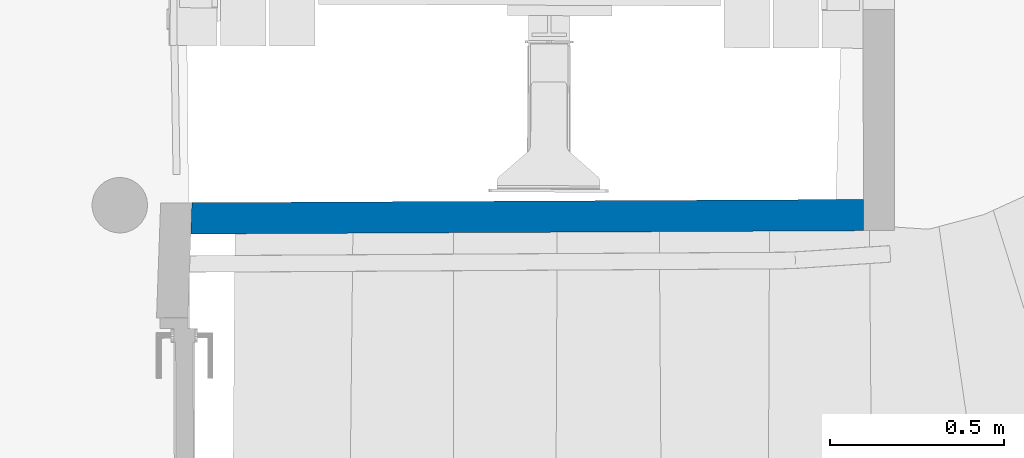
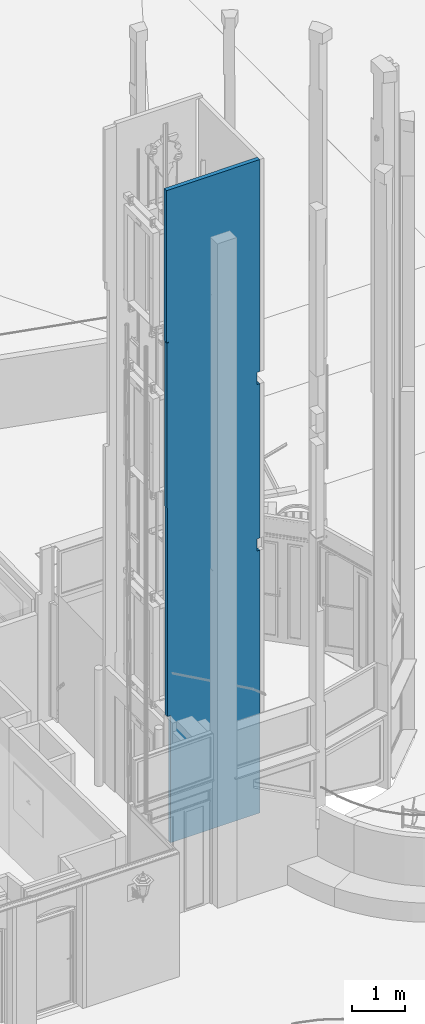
# One storey, part 98 of 133: 1 wall.
"""IFC2X3 building model written with IfcOpenShell, lengths in centimetres."""

from ifc_helpers import new_model, entity, si_unit, converted_unit, direction, frame, origin, origin_with_axes, place, context, subcontext, project, spatial, faceted_brep, material, layer, layer_set, layer_usage, type_object, element, save


model = new_model("IFC2X3")

# Units and contexts
model_context = context("Model", 3, precision=0.0001, world=origin(), true_north=direction((0.225632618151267, 0.974212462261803, 0.0)))
body_context = subcontext(model_context, "Body", "Model", "MODEL_VIEW")
ifc_project = project(units=[si_unit("LENGTHUNIT", "METRE", prefix="CENTI"), si_unit("AREAUNIT", "SQUARE_METRE", prefix="CENTI"), si_unit("VOLUMEUNIT", "CUBIC_METRE", prefix="CENTI"), converted_unit("PLANEANGLEUNIT", "DEGREE", entity("IfcRatioMeasure", 0.0174532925), si_unit("PLANEANGLEUNIT", "RADIAN"), dimensions=[0, 0, 0, 0, 0, 0, 0])], contexts=[model_context])

# Site, building, storey
site_placement = place(None, origin_with_axes())
site = spatial("IfcSite", under=ifc_project, at=site_placement, Name="Default Site", CompositionType="ELEMENT")
building_placement = place(site_placement, origin_with_axes())
building = spatial("IfcBuilding", under=site, at=building_placement, Name="Default Building", CompositionType="ELEMENT")
storey_placement = place(building_placement, frame((0.0, 0.0, -291.400371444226), z_axis=(0.0, 0.0, 1.0), x_axis=(1.0, 0.0, 0.0)))
storey = spatial("IfcBuildingStorey", under=building, at=storey_placement, Name="Rez-de-Jardin", CompositionType="ELEMENT", Elevation=-291.400371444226)

# Wall
ifc_material = material(Name="<aucun>")
ifc_layer = layer(ifc_material, 9.0)
ifc_layer_set = layer_set([ifc_layer], Name="default")
ifc_layer_usage = layer_usage(ifc_layer_set, "AXIS2", "POSITIVE", -4.5)
wall_type = type_object("IfcWallType", Name="default 90", PredefinedType="NOTDEFINED", material=ifc_layer_set)
wall_placement = place(storey_placement, frame((1100.97423759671, -665.166462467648, 7.46069872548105e-12), z_axis=(0.0, 0.0, 1.0), x_axis=(0.999987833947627, 0.00493274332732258, 0.0)))
element("IfcWall", 1, at=wall_placement, inside=storey, type_object=wall_type, material=ifc_layer_usage, Name="Enveloppe 568089", context=body_context, shape_type="Brep", body=[
    faceted_brep([(19.9138331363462, 4.50000239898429, 1.03831219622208e-05), (5.30565374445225, 4.50000239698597, 1.03831219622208e-05), (5.30565374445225, 4.50000239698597, 270.392003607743), (5.30565374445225, 4.50000239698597, 271.400371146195), (5.30565374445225, 4.50000239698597, 289.400371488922), (7.04374637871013, 4.50000239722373, 289.400371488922), (19.9138331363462, 4.50000239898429, 289.400371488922), (7.04374637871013, 4.50000239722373, 291.413221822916), (7.04374637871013, 4.50000239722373, 353.79756535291), (19.9138331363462, 4.50000239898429, 353.79756535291), (5.80652963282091, 4.50001956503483, 353.79756535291), (7.04374637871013, 4.50001956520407, 353.79756535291), (7.04374637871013, 4.50001956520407, 291.413221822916), (5.80652963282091, 4.50001956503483, 291.413221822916), (5.30565374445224, 4.50001070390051, 353.79756535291), (5.80652963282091, 4.50001070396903, 353.79756535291), (5.80652963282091, 4.50001070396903, 291.413221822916), (5.30565374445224, 4.50001070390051, 291.413221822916), (7.04374637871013, 4.50002020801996, 289.400371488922), (5.30565374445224, 4.5000202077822, 289.400371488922), (5.30565374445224, 4.5000202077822, 291.413221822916), (5.80652963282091, 4.50002020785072, 291.413221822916), (7.04374637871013, 4.50002020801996, 291.413221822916), (5.30533071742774, 4.49252586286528, 291.413221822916), (-1.95618760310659, 4.46133609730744, 291.413221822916), (-1.95618760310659, 4.46133609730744, 353.79756535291), (5.30533071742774, 4.49252586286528, 353.79756535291), (7.04374637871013, 4.50000239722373, 769.208560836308), (7.04374637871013, 4.50000239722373, 771.195732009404), (19.9138331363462, 4.50000239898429, 771.195732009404), (19.9138331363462, 4.50000239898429, 644.308577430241), (19.9138331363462, 4.50000239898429, 569.408570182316), (5.30571218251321, 4.49252398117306, 771.195732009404), (5.80659866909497, 4.49467539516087, 771.195732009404), (5.80659866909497, 4.49467539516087, 769.208560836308), (5.30571218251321, 4.49252398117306, 769.208560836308), (5.80659865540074, 4.49467858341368, 769.208560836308), (7.04374649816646, 4.4999923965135, 769.208560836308), (7.04374649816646, 4.4999923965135, 353.79756535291), (5.80659865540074, 4.49467858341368, 353.79756535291), (5.30533071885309, 4.49252553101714, 353.79756535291), (-1.95618760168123, 4.4613357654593, 353.79756535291), (-1.95618760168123, 4.4613357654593, 769.208560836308), (7.04374637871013, 4.50002020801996, 769.208560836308), (5.80652963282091, 4.50002020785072, 769.208560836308), (5.80652963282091, 4.50002020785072, 771.195732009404), (7.04374637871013, 4.50002020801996, 771.195732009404), (5.30565327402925, 4.49991533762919, 771.195732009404), (5.8065296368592, 4.49999377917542, 771.195732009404), (5.8065296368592, 4.49999377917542, 769.208560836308), (5.30565327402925, 4.49991533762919, 769.208560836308), (-1.95638448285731, 4.49878221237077, 771.195732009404), (5.30565327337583, 4.49991950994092, 771.195732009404), (5.30565327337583, 4.49991950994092, 769.208560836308), (-1.95638448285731, 4.49878221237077, 769.208560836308), (-3.19350680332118, 4.49859036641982, 771.195732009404), (-1.95638448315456, 4.49878411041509, 771.195732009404), (-1.95638448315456, 4.49878411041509, 769.208560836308), (-3.19350680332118, 4.49859036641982, 769.208560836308), (5.80652963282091, 4.50000239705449, 771.195732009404), (5.80652963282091, 4.50000239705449, 1133.31073368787), (5.80652963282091, 4.50000239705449, 1143.31077183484), (19.9138331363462, 4.50000239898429, 1143.31077183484), (19.9138331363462, 4.50000239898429, 1054.19572438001), (19.9138331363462, 4.50000239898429, 977.310739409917), (-3.19350680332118, 4.49859036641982, 1143.31077183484), (5.80652963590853, 4.49999984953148, 1143.31077183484), (5.80652963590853, 4.49999984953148, 1133.31073368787), (-3.19350680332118, 4.49859036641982, 1133.31073368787), (5.30565327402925, 4.49991533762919, 1133.31073368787), (5.8065296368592, 4.49999377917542, 1133.31073368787), (-1.95638448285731, 4.49878221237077, 1133.31073368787), (5.30565327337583, 4.49991950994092, 1133.31073368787), (-1.95638448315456, 4.49878411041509, 1133.31073368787), (5.80652963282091, 4.50000239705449, 1145.31072224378), (5.80652963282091, 4.50000239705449, 1147.31076802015), (19.9138331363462, 4.50000239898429, 1147.31076802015), (1.28367782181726e-05, 4.50000370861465, 1145.31072224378), (5.80652963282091, 4.50000370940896, 1145.31072224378), (5.80652963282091, 4.50000370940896, 1143.31077183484), (1.28367782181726e-05, 4.50000370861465, 1143.31077183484), (1.28367782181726e-05, 4.50000370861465, 1147.31076802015), (5.27484973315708, 4.50000370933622, 1147.31076802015), (5.80652963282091, 4.50000370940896, 1147.31076802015), (8.36775910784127e-06, 4.49909772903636, 1143.31077183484), (-3.19350680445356, 4.4985975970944, 1143.31077183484), (-3.19350680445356, 4.4985975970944, 1145.31072224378), (8.36775910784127e-06, 4.49909772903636, 1145.31072224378), (-3.7251796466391, 4.50000370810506, 1147.31076802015), (-3.7251796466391, 4.50000370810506, 1246.96935261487), (1.28367782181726e-05, 4.50000370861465, 1246.96935261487), (5.27484973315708, 4.50000370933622, 1246.96935261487), (5.27484973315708, 4.50001960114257, 1246.96935261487), (19.9138331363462, 4.50001960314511, 1246.96935261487), (19.9138331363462, 4.50001960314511, 1147.31076802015), (5.80652963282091, 4.5000196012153, 1147.31076802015), (5.27484973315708, 4.50001960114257, 1147.31076802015), (-3.7251796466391, 4.50002089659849, 1495.01317585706), (5.27484973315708, 4.50002089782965, 1495.01317585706), (5.27484973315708, 4.50002089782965, 1246.96935261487), (-3.7251796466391, 4.50002089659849, 1246.96935261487), (5.27484973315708, 4.50001960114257, 1495.01317585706), (19.9138331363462, 4.50001960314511, 1495.01317585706), (4.93776811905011, -4.50001597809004, 1.03831219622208e-05), (19.9137843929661, -4.5000159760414, 1.03831219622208e-05), (19.9137843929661, -4.5000159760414, 289.400371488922), (4.93776811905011, -4.50001597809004, 289.400371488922), (4.93776811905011, -4.50001597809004, 271.400371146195), (4.93776811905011, -4.50001597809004, 270.392003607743), (19.9137843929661, -4.5000159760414, 353.79756535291), (4.93776811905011, -4.50001597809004, 353.79756535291), (4.93776811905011, -4.50001597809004, 291.413221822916), (-1.91770769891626, -4.50000742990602, 291.413221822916), (4.93776811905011, -4.50000742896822, 291.413221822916), (4.93776811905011, -4.50000742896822, 353.79756535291), (-1.91770769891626, -4.50000742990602, 353.79756535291), (19.9137843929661, -4.50000742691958, 353.79756535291), (19.9137843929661, -4.50000742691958, 569.408570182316), (19.9137843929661, -4.50000742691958, 644.308577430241), (19.9137843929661, -4.50000742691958, 771.195732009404), (-1.91770769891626, -4.50000742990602, 771.195732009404), (-1.91770769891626, -4.50000742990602, 769.208560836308), (-3.19202286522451, -4.50001581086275, 769.208560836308), (-1.91770769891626, -4.50001581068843, 769.208560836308), (-1.91770769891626, -4.50001581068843, 771.195732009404), (-3.19202286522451, -4.50001581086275, 771.195732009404), (19.9137843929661, -4.50001580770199, 771.195732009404), (19.9137843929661, -4.50001580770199, 977.310739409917), (19.9137843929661, -4.50001580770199, 1054.19572438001), (19.9137843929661, -4.50001580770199, 1143.31077183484), (-3.59066019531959e-05, -4.5000158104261, 1143.31077183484), (-3.19202286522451, -4.50001581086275, 1143.31077183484), (-3.5906601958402e-05, -4.49997775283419, 1143.31077183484), (19.9137843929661, -4.49997775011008, 1143.31077183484), (19.9137843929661, -4.49997775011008, 1147.31076802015), (-3.5906601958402e-05, -4.49997775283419, 1147.31076802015), (-3.5906601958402e-05, -4.49997775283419, 1145.31072224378), (-3.59066019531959e-05, -4.5000158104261, 1145.31072224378), (-3.19202286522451, -4.50001581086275, 1145.31072224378), (-3.76547413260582, -4.50000046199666, 1147.31076802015), (-3.59066019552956e-05, -4.50000046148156, 1147.31076802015), (-3.59066019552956e-05, -4.50000046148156, 1246.96935261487), (-3.76547413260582, -4.50000046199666, 1246.96935261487), (19.9137843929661, -4.49997775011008, 1246.96935261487), (-3.5906601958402e-05, -4.49997775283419, 1246.96935261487), (19.9137843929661, -4.50000045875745, 1246.96935261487), (19.9137843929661, -4.50000045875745, 1495.01317585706), (-3.76547413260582, -4.50000046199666, 1495.01317585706), (19.9137843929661, -4.49997906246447, 1.03831219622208e-05), (5.30565374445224, 4.50001070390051, 1.03831219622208e-05), (5.30567506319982, 4.50000983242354, 289.400371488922), (5.30567506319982, 4.50000983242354, 271.400371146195), (19.9137843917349, 4.50000239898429, 1.03831219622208e-05), (19.9137843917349, 4.50000239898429, 289.400371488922), (19.9137843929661, -4.49997906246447, 289.400371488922), (5.30567506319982, 4.50000983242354, 270.392003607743), (5.30567506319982, 4.50000983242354, 1.03831219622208e-05), (19.9137843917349, 4.50000239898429, 353.79756535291), (19.9137843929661, -4.49997906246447, 353.79756535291), (5.30567506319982, 4.50000983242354, 291.413221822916), (-1.95618765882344, 4.46134906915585, 291.413221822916), (19.9137843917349, 4.50000239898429, 569.408570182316), (19.9137843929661, -4.49997906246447, 569.408570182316), (19.9137843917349, 4.50000239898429, 644.308577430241), (19.9137843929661, -4.49997906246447, 644.308577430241), (19.9137843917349, 4.50000239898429, 771.195732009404), (19.9137843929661, -4.49997906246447, 771.195732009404), (5.80652963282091, 4.50001956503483, 769.208560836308), (-1.95618765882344, 4.46134906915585, 769.208560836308), (19.9137843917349, 4.50000239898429, 977.310739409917), (19.9137843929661, -4.49997906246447, 977.310739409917), (19.9137843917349, 4.50000239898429, 1054.19572438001), (19.9137843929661, -4.49997906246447, 1054.19572438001), (19.9137843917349, 4.50000239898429, 1143.31077183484), (19.9137843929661, -4.49997906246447, 1143.31077183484), (19.9137843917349, 4.50000239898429, 1147.31076802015), (19.9137843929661, -4.49997906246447, 1147.31076802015), (8.36899013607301e-06, -4.49997775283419, 1145.31072224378), (8.36899013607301e-06, -4.49997775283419, 1147.31076802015), (8.36775898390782e-06, 4.50000370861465, 1147.31076802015), (8.36775898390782e-06, 4.50000370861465, 1145.31072224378), (8.36775898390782e-06, 4.50000370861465, 1143.31077183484), (-3.19350680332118, 4.49859036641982, 1145.31072224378), (-3.7251796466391, 4.50002089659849, 1147.31076802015), (19.9137843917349, 4.50000239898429, 1246.96935261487), (19.9137843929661, -4.49997906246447, 1246.96935261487), (19.9138331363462, 4.50000239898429, 1495.01317585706), (19.9137843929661, -4.49997906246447, 1495.01317585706), (19.9137843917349, 4.50000239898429, 1495.01317585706), (-1.91769672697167, -4.50000738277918, 291.413221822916), (-1.91769672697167, -4.50000738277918, 353.79756535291), (-1.95618765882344, 4.46134906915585, 353.79756535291), (-1.95619863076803, 4.46134902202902, 769.208560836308), (-1.95619863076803, 4.46134902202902, 353.79756535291), (-3.19209754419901, -4.50001582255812, 769.208560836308), (-3.19209754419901, -4.50001582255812, 771.195732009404), (-3.19209754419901, -4.50001582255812, 1143.31077183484), (-3.19209754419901, -4.50001582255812, 1145.31072224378), (-3.76541108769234, -4.50000074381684, 1147.31076802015), (-3.76541108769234, -4.50000074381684, 1246.96935261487), (-3.76541108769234, -4.50000074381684, 1495.01317585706)], [[[0, 1, 2, 3, 4, 5, 6]], [[6, 5, 7, 8, 9]], [[10, 11, 12, 13]], [[14, 15, 16, 17]], [[18, 19, 20, 21, 22]], [[23, 24, 25, 26]], [[9, 8, 27, 28, 29, 30, 31]], [[32, 33, 34, 35]], [[32, 33, 34, 35]], [[36, 37, 38, 39]], [[36, 39, 40, 41, 42]], [[43, 44, 45, 46]], [[47, 48, 49, 50]], [[47, 48, 49, 50]], [[51, 52, 53, 54]], [[55, 56, 57, 58]], [[29, 28, 59, 60, 61, 62, 63, 64]], [[65, 66, 67, 68]], [[69, 70, 48, 47]], [[71, 72, 52, 51]], [[68, 73, 56, 55]], [[62, 61, 74, 75, 76]], [[77, 78, 79, 80]], [[81, 82, 83, 78, 77]], [[84, 85, 86, 87]], [[81, 88, 89, 90]], [[90, 91, 82, 81]], [[92, 93, 94, 95, 96]], [[97, 98, 99, 100]], [[101, 102, 93, 92]], [[103, 104, 105, 106, 107, 108]], [[106, 105, 109, 110, 111]], [[112, 113, 114, 115]], [[115, 114, 116, 117, 118, 119, 120, 121]], [[122, 123, 124, 125]], [[125, 124, 126, 127, 128, 129, 130, 131]], [[132, 133, 134, 135, 136]], [[131, 130, 137, 138]], [[139, 140, 141, 142]], [[135, 134, 143, 144]], [[142, 141, 145, 146, 147]], [[148, 103, 149, 0]], [[106, 150, 151, 107]], [[148, 152, 153, 154]], [[107, 151, 155, 108]], [[108, 155, 156, 103]], [[154, 153, 157, 158]], [[111, 159, 150, 106]], [[160, 23, 111, 112]], [[158, 157, 161, 162]], [[162, 161, 163, 164]], [[164, 163, 165, 166]], [[54, 167, 43, 36, 168, 121, 122, 58]], [[166, 165, 169, 170]], [[170, 169, 171, 172]], [[172, 171, 173, 174]], [[174, 173, 175, 176]], [[87, 177, 178, 179, 180, 181]], [[138, 136, 87, 182]], [[183, 81, 135, 139]], [[176, 175, 184, 185]], [[186, 101, 97, 147, 187]], [[185, 184, 188, 187]], [[160, 189, 190, 191]], [[121, 192, 193, 115]], [[58, 194, 195, 55]], [[55, 195, 196, 65, 68]], [[65, 196, 197, 182]], [[183, 198, 199, 100]], [[100, 199, 200, 97]]]),
    faceted_brep([(198.50086751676, 4.49998736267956, 1.03831219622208e-05), (19.9138331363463, 4.49998733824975, 1.03831219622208e-05), (19.9138331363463, 4.49998733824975, 289.400371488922), (19.9138331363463, 4.49998733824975, 353.79756535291), (19.9138331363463, 4.49998733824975, 569.408570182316), (192.075980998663, 4.49998736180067, 569.408570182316), (198.50086751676, 4.49998736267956, 569.408570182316), (198.50086751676, 4.49998736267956, 391.400371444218), (198.50086751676, 4.49998736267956, 291.413221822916), (192.075980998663, 4.50001769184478, 569.408570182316), (19.9138331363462, 4.50001766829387, 569.408570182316), (19.9138331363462, 4.50001766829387, 644.308577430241), (192.075980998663, 4.50001769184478, 644.308577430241), (192.075980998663, 4.50001769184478, 629.195724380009), (192.075980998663, 4.50001769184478, 601.400361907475), (192.075980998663, 4.49998736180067, 601.400361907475), (198.50086751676, 4.49998736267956, 601.400361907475), (198.50086751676, 4.49998736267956, 629.195724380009), (192.075980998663, 4.49998736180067, 629.195724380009), (192.075980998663, 4.49998736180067, 644.308577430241), (198.50086751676, 4.49998736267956, 644.308577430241), (19.9138331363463, 4.49998733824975, 644.308577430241), (19.9138331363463, 4.49998733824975, 771.195732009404), (19.9138331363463, 4.49998733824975, 977.310739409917), (192.27730390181, 4.49998736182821, 977.310739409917), (198.50086751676, 4.49998736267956, 977.310739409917), (198.50086751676, 4.49998736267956, 860.310731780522), (198.50086751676, 4.49998736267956, 771.195732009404), (192.27730390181, 4.4999782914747, 977.310739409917), (19.9138331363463, 4.49997826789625, 977.310739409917), (19.9138331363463, 4.49997826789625, 1054.19572438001), (192.27730390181, 4.4999782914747, 1054.19572438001), (192.27730390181, 4.4999782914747, 1009.99573315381), (192.27730390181, 4.4999782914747, 982.195745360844), (192.27730390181, 4.49998736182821, 982.195745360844), (198.50086751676, 4.49998736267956, 982.195745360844), (198.50086751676, 4.49998736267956, 1009.99573315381), (192.27730390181, 4.49998736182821, 1009.99573315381), (192.27730390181, 4.49998736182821, 1054.19572438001), (198.50086751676, 4.49998736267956, 1054.19572438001), (19.9138331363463, 4.49998733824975, 1054.19572438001), (19.9138331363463, 4.49998733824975, 1143.31077183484), (19.9138331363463, 4.49998733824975, 1147.31076802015), (19.9138331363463, 4.49998733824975, 1246.96935261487), (19.9138331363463, 4.49998733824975, 1495.01317585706), (198.50086751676, 4.49998736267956, 1495.01317585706), (198.50086751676, 4.49998736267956, 1143.31077183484), (19.9137843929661, -4.49997906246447, 1.03831219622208e-05), (198.471349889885, -4.49997903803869, 1.03831219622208e-05), (198.471349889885, -4.49997903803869, 291.413221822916), (198.471349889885, -4.49997903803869, 391.400371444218), (198.471349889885, -4.49997903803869, 569.408570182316), (191.974841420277, -4.49997903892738, 569.408570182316), (19.9137843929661, -4.49997906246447, 569.408570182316), (19.9137843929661, -4.49997906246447, 353.79756535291), (19.9137843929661, -4.49997906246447, 289.400371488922), (191.974841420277, -4.49997903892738, 601.400361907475), (191.974841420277, -4.49997903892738, 629.195724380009), (191.974841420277, -4.49997903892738, 644.308577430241), (19.9137843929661, -4.49997906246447, 644.308577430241), (191.974841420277, -4.49998963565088, 569.408570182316), (198.471349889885, -4.49998963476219, 569.408570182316), (198.471349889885, -4.49998963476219, 601.400361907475), (191.974841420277, -4.49998963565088, 601.400361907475), (191.974841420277, -4.49998963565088, 629.195724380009), (198.471349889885, -4.49998963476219, 629.195724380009), (198.471349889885, -4.49998963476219, 644.308577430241), (191.974841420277, -4.49998963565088, 644.308577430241), (198.471349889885, -4.49997903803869, 644.308577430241), (198.471349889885, -4.49997903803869, 771.195732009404), (198.471349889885, -4.49997903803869, 860.310731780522), (198.471349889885, -4.49997903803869, 977.310739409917), (192.1434529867, -4.49997903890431, 977.310739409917), (19.9137843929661, -4.49997906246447, 977.310739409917), (19.9137843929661, -4.49997906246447, 771.195732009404), (192.1434529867, -4.49997903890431, 982.195745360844), (192.1434529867, -4.49997903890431, 1009.99573315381), (192.1434529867, -4.49997903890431, 1054.19572438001), (19.9137843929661, -4.49997906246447, 1054.19572438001), (192.1434529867, -4.50001073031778, 977.310739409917), (198.471349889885, -4.50001072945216, 977.310739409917), (198.471349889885, -4.50001072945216, 982.195745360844), (192.1434529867, -4.50001073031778, 982.195745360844), (192.1434529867, -4.50001073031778, 1009.99573315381), (198.471349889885, -4.50001072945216, 1009.99573315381), (198.471349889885, -4.50001072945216, 1054.19572438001), (192.1434529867, -4.50001073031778, 1054.19572438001), (198.471349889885, -4.49997903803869, 1054.19572438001), (198.471349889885, -4.49997903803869, 1143.31077183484), (198.471349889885, -4.49997903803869, 1495.01317585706), (19.9137843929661, -4.49997906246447, 1495.01317585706), (19.9137843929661, -4.49997906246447, 1246.96935261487), (19.9137843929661, -4.49997906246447, 1147.31076802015), (19.9137843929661, -4.49997906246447, 1143.31077183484), (198.471349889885, -4.49999178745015, 1.03831219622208e-05), (19.9138331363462, 4.50000239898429, 1.03831219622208e-05), (19.9137843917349, 4.50000239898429, 289.400371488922), (19.9137843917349, 4.50000239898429, 1.03831219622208e-05), (198.50086711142, 4.49998736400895, 1.03831219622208e-05), (198.50086711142, 4.49998736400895, 291.413221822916), (198.471349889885, -4.49999178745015, 291.413221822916), (19.9137843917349, 4.50000239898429, 353.79756535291), (19.9137843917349, 4.50000239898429, 569.408570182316), (198.50086711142, 4.49998736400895, 391.400371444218), (198.471349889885, -4.49999178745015, 391.400371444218), (198.50086711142, 4.49998736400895, 569.408570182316), (198.471349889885, -4.49999178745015, 569.408570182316), (19.9138331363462, 4.50000239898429, 569.408570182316), (19.9138331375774, -4.49997906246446, 569.408570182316), (19.9138331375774, -4.49997906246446, 644.308577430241), (19.9138331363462, 4.50000239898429, 644.308577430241), (191.974829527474, -4.49998950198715, 629.195724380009), (191.974829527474, -4.49998950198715, 601.400361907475), (198.471349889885, -4.49999178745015, 601.400361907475), (198.50086711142, 4.49998736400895, 601.400361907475), (198.471349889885, -4.49999178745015, 629.195724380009), (198.50086711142, 4.49998736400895, 629.195724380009), (198.50086711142, 4.49998736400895, 644.308577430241), (198.471349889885, -4.49999178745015, 644.308577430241), (19.9137843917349, 4.50000239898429, 977.310739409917), (19.9137843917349, 4.50000239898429, 771.195732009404), (198.50086711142, 4.49998736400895, 771.195732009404), (198.471349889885, -4.49999178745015, 771.195732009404), (19.9137843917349, 4.50000239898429, 644.308577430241), (198.50086711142, 4.49998736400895, 860.310731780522), (198.471349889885, -4.49999178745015, 860.310731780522), (198.50086711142, 4.49998736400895, 977.310739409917), (198.471349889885, -4.49999178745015, 977.310739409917), (19.9138331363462, 4.50000239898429, 977.310739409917), (19.9138331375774, -4.49997906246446, 977.310739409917), (19.9138331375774, -4.49997906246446, 1054.19572438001), (19.9138331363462, 4.50000239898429, 1054.19572438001), (192.143448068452, -4.50001065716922, 1009.99573315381), (192.143448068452, -4.50001065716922, 982.195745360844), (198.471349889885, -4.49999178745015, 982.195745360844), (198.50086711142, 4.49998736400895, 982.195745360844), (198.471349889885, -4.49999178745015, 1009.99573315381), (198.50086711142, 4.49998736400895, 1009.99573315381), (198.50086711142, 4.49998736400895, 1054.19572438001), (198.471349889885, -4.49999178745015, 1054.19572438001), (19.9138331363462, 4.50000239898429, 1495.01317585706), (198.471349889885, -4.49999178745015, 1495.01317585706), (19.9137843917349, 4.50000239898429, 1143.31077183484), (19.9137843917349, 4.50000239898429, 1054.19572438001), (198.50086711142, 4.49998736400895, 1143.31077183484), (198.471349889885, -4.49999178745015, 1143.31077183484), (19.9137843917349, 4.50000239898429, 1495.01317585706), (19.9137843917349, 4.50000239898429, 1246.96935261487), (19.9137843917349, 4.50000239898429, 1147.31076802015), (198.50086711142, 4.49998736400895, 1495.01317585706)], [[[0, 1, 2, 3, 4, 5, 6, 7, 8]], [[9, 10, 11, 12, 13, 14]], [[6, 5, 15, 16]], [[17, 18, 19, 20]], [[20, 19, 21, 22, 23, 24, 25, 26, 27]], [[28, 29, 30, 31, 32, 33]], [[25, 24, 34, 35]], [[36, 37, 38, 39]], [[39, 38, 40, 41, 42, 43, 44, 45, 46]], [[47, 48, 49, 50, 51, 52, 53, 54, 55]], [[53, 52, 56, 57, 58, 59]], [[60, 61, 62, 63]], [[64, 65, 66, 67]], [[59, 58, 68, 69, 70, 71, 72, 73, 74]], [[73, 72, 75, 76, 77, 78]], [[79, 80, 81, 82]], [[83, 84, 85, 86]], [[78, 77, 87, 88, 89, 90, 91, 92, 93]], [[0, 94, 47, 95]], [[55, 96, 97, 47]], [[94, 98, 99, 100]], [[54, 101, 96, 55]], [[53, 102, 101, 54]], [[100, 99, 103, 104]], [[104, 103, 105, 106]], [[107, 108, 109, 110]], [[13, 111, 112, 14]], [[14, 63, 113, 16]], [[106, 105, 114, 113]], [[17, 115, 64, 13]], [[115, 116, 117, 118]], [[73, 119, 120, 74]], [[118, 117, 121, 122]], [[74, 120, 123, 59]], [[122, 121, 124, 125]], [[125, 124, 126, 127]], [[128, 129, 130, 131]], [[32, 132, 133, 33]], [[33, 82, 134, 35]], [[127, 126, 135, 134]], [[36, 136, 83, 32]], [[136, 137, 138, 139]], [[140, 90, 141, 45]], [[93, 142, 143, 78]], [[139, 138, 144, 145]], [[90, 146, 147, 91]], [[91, 147, 148, 92]], [[92, 148, 142, 93]], [[145, 144, 149, 141]]]),
])

save(model, "model.ifc")
